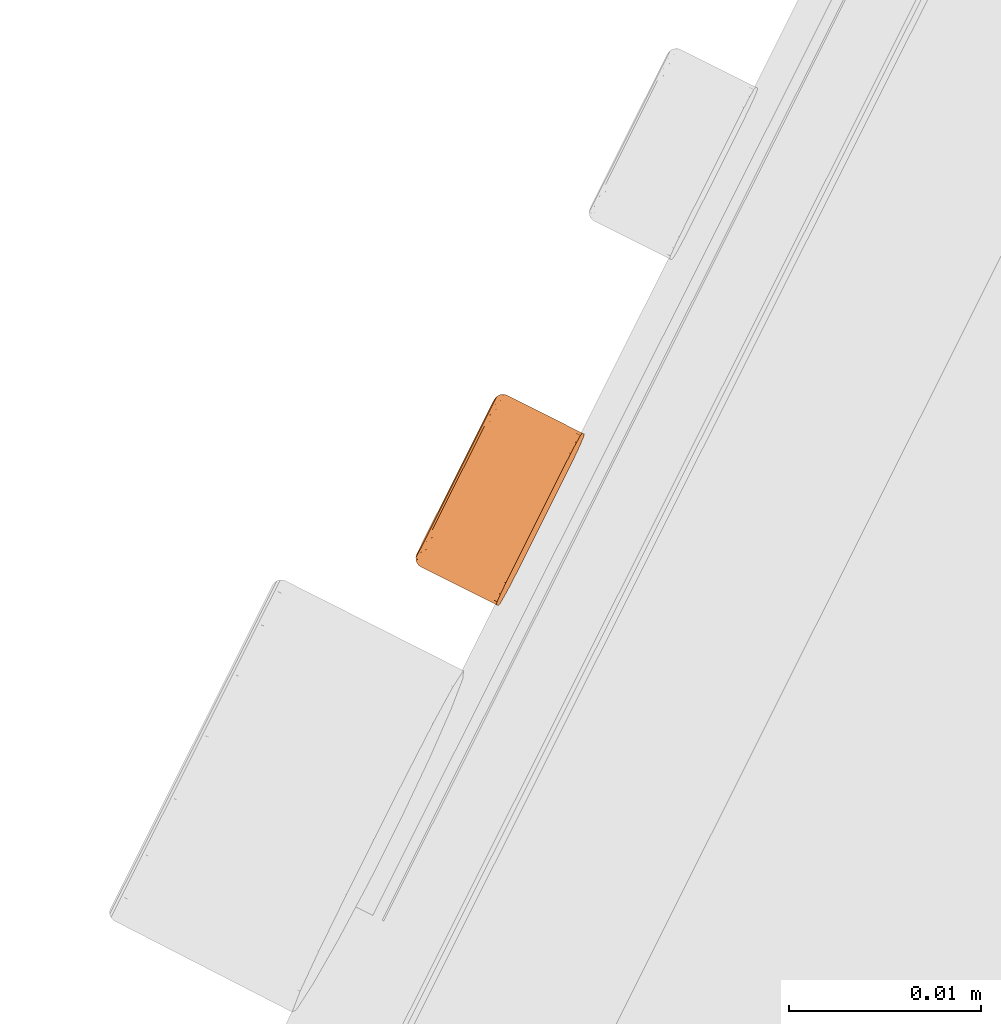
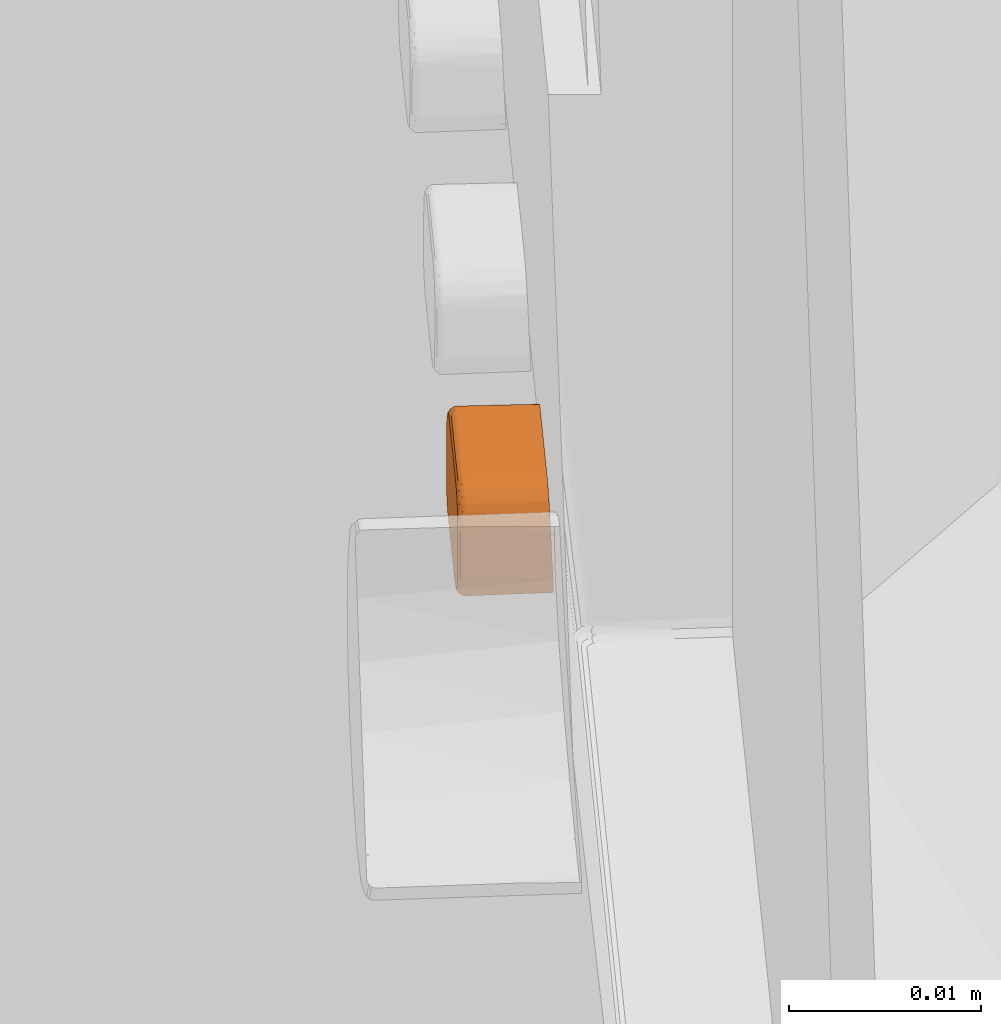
# One storey, part 194 of 206: 1 proxy.
"""IFC2X3 building model written with IfcOpenShell, lengths in metres."""

from ifc_helpers import new_model, si_unit, derived_unit, direction, frame, origin, place, context, subcontext, project, spatial, face_set, surface_model, source, transform, mapped, material, type_object, type_shapes, element, save


model = new_model("IFC2X3")

# Units and contexts
model_context = context("Model", 3, precision=5.2338327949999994e-05, world=origin(), true_north=direction((0.0, 1.0)))
body_context = subcontext(model_context, "Body", "Model", "MODEL_VIEW")
ifc_project = project(units=[si_unit("LENGTHUNIT", "METRE"), si_unit("AREAUNIT", "SQUARE_METRE"), si_unit("VOLUMEUNIT", "CUBIC_METRE"), si_unit("MASSUNIT", "GRAM", prefix="KILO"), si_unit("PLANEANGLEUNIT", "RADIAN"), derived_unit("THERMALTRANSMITTANCEUNIT", [(si_unit("MASSUNIT", "GRAM", prefix="KILO"), 1), (si_unit("THERMODYNAMICTEMPERATUREUNIT", "KELVIN"), -1), (si_unit("TIMEUNIT", "SECOND"), -3)])], contexts=[model_context])

# Site, building, storey
site_placement = place(None, frame((0.0, 0.0, 0.0), z_axis=(0.0, 0.0, 1.0), x_axis=(0.8939966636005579, -0.4480736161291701, 0.0)))
site = spatial("IfcSite", under=ifc_project, at=site_placement, Name="Default", CompositionType="ELEMENT")
building_placement = place(site_placement, origin())
building = spatial("IfcBuilding", under=site, at=building_placement, CompositionType="ELEMENT")
storey_placement = place(building_placement, origin())
storey = spatial("IfcBuildingStorey", under=building, at=storey_placement, Name="Erdgeschoss", CompositionType="ELEMENT", Elevation=0.0)

# Proxy
ifc_material = material(Name="IfcSurfaceStyle #623543")
building_element_proxy_type = type_object("IfcBuildingElementProxyType", Name="BuildingElementProxy 40:BuildingElementProxy 40", PredefinedType="NOTDEFINED", material=ifc_material)
shared_shape = source(origin(), body_context, "Body", "SurfaceModel", [
    surface_model("IfcFaceBasedSurfaceModel", [(21.22327664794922, 4.49878005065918, 0.6701360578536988), (21.223281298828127, 4.49801469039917, 0.669983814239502), (21.223295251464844, 4.497365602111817, 0.6695500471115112), (21.22331618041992, 4.496932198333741, 0.6689012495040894), (21.22334408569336, 4.496780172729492, 0.6681357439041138), (21.22346268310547, 4.496780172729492, 0.6651352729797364), (21.223555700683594, 4.49878005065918, 0.6631348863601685), (21.223555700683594, 4.504779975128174, 0.6631348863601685), (21.22346268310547, 4.506780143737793, 0.6651352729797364), (21.223420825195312, 4.496780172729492, 0.666135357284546), (21.223420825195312, 4.506780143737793, 0.666135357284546), (21.22338129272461, 4.496780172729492, 0.6671355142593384), (21.22338129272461, 4.506780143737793, 0.6671355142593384), (21.22334408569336, 4.506780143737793, 0.6681357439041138), (21.22327664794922, 4.504779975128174, 0.6701360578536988), (21.223497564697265, 4.496932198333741, 0.6643697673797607), (21.223527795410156, 4.497365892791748, 0.6637206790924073), (21.223546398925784, 4.49801469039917, 0.6632871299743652), (21.223546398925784, 4.505545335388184, 0.6632871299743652), (21.223527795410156, 4.506194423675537, 0.663720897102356), (21.223497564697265, 4.506627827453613, 0.6643697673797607), (21.22331618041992, 4.506627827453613, 0.6689012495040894), (21.223295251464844, 4.5061941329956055, 0.6695503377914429), (21.223281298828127, 4.505545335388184, 0.669983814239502), (21.218958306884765, 4.506780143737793, 0.6651532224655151), (21.218955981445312, 4.506741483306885, 0.6647626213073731), (21.218953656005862, 4.506627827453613, 0.6643877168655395), (21.218953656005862, 4.506442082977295, 0.6640408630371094), (21.21895133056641, 4.506194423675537, 0.6637391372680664), (21.21895133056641, 4.505889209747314, 0.6634889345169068), (21.218949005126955, 4.505545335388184, 0.6633054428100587), (21.218949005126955, 4.505168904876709, 0.6631914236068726), (21.218949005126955, 4.504779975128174, 0.6631531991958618), (21.218949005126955, 4.501780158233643, 0.6631531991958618), (21.218949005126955, 4.49878005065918, 0.6631531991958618), (21.218949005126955, 4.498389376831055, 0.6631917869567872), (21.218949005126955, 4.4980143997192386, 0.6633055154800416), (21.21895133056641, 4.497667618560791, 0.6634911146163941), (21.21895133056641, 4.497365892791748, 0.6637389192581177), (21.218953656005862, 4.497115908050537, 0.6640440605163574), (21.218953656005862, 4.496932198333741, 0.6643878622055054), (21.218955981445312, 4.496818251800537, 0.6647645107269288), (21.218958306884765, 4.496780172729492, 0.6651532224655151), (21.218962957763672, 4.496780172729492, 0.6666532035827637), (21.218969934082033, 4.496780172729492, 0.6681531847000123), (21.218488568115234, 4.49878005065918, 0.663463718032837), (21.218451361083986, 4.49878005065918, 0.6636552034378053), (21.218451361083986, 4.501780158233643, 0.6636552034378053), (21.218488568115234, 4.504779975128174, 0.663463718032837), (21.218595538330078, 4.504779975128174, 0.663301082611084), (21.218451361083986, 4.504779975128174, 0.6636552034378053), (21.218595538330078, 4.49878005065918, 0.663301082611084), (21.218758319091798, 4.504779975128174, 0.6631920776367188), (21.218758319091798, 4.49878005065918, 0.6631920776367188), (21.21885133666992, 4.504779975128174, 0.6631632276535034), (21.21885133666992, 4.49878005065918, 0.6631632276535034), (21.218451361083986, 4.505352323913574, 0.663768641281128), (21.218488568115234, 4.5054252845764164, 0.6635916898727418), (21.21859786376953, 4.5054871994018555, 0.6634411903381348), (21.218758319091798, 4.505161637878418, 0.6632302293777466), (21.218758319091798, 4.505528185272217, 0.6633409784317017), (21.21885133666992, 4.5055389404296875, 0.663314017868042), (21.218758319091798, 4.505867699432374, 0.6635218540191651), (21.218853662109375, 4.505883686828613, 0.6634975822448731), (21.21876064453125, 4.506165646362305, 0.6637658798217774), (21.218853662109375, 4.50618599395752, 0.663745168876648), (21.218855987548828, 4.506433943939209, 0.6640468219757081), (21.21845368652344, 4.505839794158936, 0.6640936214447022), (21.218490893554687, 4.505974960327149, 0.6639580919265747), (21.21859786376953, 4.506089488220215, 0.6638428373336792), (21.21849321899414, 4.50634208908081, 0.6645068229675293), (21.218600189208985, 4.506492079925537, 0.6644442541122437), (21.21860484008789, 4.506633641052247, 0.6651546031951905), (21.218765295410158, 4.50670340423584, 0.6647705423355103), (21.218765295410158, 4.506742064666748, 0.6651539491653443), (21.21885831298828, 4.506731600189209, 0.6647645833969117), (21.218860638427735, 4.506770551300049, 0.6651535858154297), (21.218456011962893, 4.506165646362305, 0.6645804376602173), (21.218495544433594, 4.506471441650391, 0.6651550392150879), (21.218458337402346, 4.506280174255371, 0.6651551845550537), (21.218855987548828, 4.5066182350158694, 0.6643912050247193), (21.218762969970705, 4.50659178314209, 0.6644026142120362), (21.21876064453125, 4.506410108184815, 0.66406310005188), (21.21885133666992, 4.50516716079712, 0.663201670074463), (21.21885133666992, 4.498391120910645, 0.6632021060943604), (21.218758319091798, 4.498396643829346, 0.6632305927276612), (21.21859786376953, 4.49806962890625, 0.6634425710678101), (21.218488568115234, 4.4981318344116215, 0.6635929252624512), (21.21859786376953, 4.497468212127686, 0.6638450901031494), (21.218490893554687, 4.497583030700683, 0.6639601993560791), (21.21849321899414, 4.497216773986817, 0.6645099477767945), (21.21845368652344, 4.497718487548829, 0.6640955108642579), (21.218456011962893, 4.4973935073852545, 0.6645830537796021), (21.21885133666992, 4.498017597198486, 0.6633154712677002), (21.218758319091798, 4.498028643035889, 0.663342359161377), (21.21876064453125, 4.497689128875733, 0.6635239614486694), (21.21876064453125, 4.497392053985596, 0.6637682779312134), (21.21876064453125, 4.497147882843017, 0.6640663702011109), (21.218855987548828, 4.497124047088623, 0.664050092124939), (21.218855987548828, 4.496940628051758, 0.6643946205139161), (21.218853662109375, 4.497673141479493, 0.6634996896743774), (21.218853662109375, 4.497371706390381, 0.663747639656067), (21.21885831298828, 4.496828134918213, 0.6647664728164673), (21.218860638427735, 4.496789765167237, 0.6651535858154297), (21.218765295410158, 4.496818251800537, 0.6651539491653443), (21.218765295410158, 4.496856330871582, 0.664772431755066), (21.218762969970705, 4.496967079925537, 0.66440595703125), (21.218600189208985, 4.497066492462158, 0.6644475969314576), (21.21860484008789, 4.496926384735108, 0.6651546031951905), (21.218495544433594, 4.497088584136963, 0.6651550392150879), (21.218458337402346, 4.497280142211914, 0.6651551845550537), (21.218451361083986, 4.498205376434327, 0.6637697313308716), (21.21846298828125, 4.506280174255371, 0.6666551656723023), (21.21850717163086, 4.506471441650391, 0.668155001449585), (21.21861646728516, 4.506633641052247, 0.6681546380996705), (21.21846996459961, 4.506280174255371, 0.6681552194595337), (21.21877692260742, 4.506742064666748, 0.6681539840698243), (21.218872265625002, 4.506770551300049, 0.6681535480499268), (21.218962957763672, 4.506780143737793, 0.6666532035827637), (21.218969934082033, 4.506780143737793, 0.6681531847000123), (21.218872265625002, 4.496789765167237, 0.6681535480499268), (21.21877692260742, 4.496818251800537, 0.6681539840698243), (21.21861646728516, 4.496926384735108, 0.6681546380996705), (21.21850717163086, 4.497088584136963, 0.668155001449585), (21.21846298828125, 4.497280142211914, 0.6666551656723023), (21.21846996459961, 4.497280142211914, 0.6681552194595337), (21.218472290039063, 4.5061665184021, 0.6687273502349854), (21.218509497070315, 4.506343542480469, 0.6688001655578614), (21.21861879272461, 4.506493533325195, 0.6688616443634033), (21.218779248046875, 4.506703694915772, 0.6685355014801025), (21.21878157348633, 4.506592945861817, 0.6689019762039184), (21.218874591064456, 4.506619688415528, 0.6689125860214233), (21.21878157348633, 4.5064121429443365, 0.6692415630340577), (21.21887691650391, 4.506435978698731, 0.6692571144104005), (21.218783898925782, 4.5061682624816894, 0.6695396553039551), (21.21887691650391, 4.506188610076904, 0.6695595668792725), (21.21887924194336, 4.505886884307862, 0.669807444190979), (21.21897458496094, 4.5061941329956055, 0.6695674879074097), (21.218976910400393, 4.505892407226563, 0.6698152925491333), (21.218472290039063, 4.505841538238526, 0.6692148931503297), (21.218511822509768, 4.50597699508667, 0.6693499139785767), (21.218621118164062, 4.506091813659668, 0.6694640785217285), (21.218514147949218, 4.505428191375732, 0.6697171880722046), (21.218623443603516, 4.505490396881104, 0.6698666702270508), (21.218623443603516, 4.504779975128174, 0.6700081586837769), (21.218786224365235, 4.505163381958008, 0.6700773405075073), (21.218786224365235, 4.504779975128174, 0.6701158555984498), (21.21887924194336, 4.505169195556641, 0.670105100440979), (21.21887924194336, 4.504779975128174, 0.670143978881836), (21.218976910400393, 4.505170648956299, 0.6701146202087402), (21.218976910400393, 4.504779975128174, 0.6701532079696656), (21.218474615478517, 4.5053549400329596, 0.6695406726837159), (21.218514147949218, 4.504779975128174, 0.6698463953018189), (21.218474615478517, 4.504779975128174, 0.6696552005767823), (21.218976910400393, 4.505545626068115, 0.6700008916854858), (21.21887924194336, 4.505542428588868, 0.6699916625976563), (21.218786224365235, 4.505531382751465, 0.6699655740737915), (21.218783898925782, 4.505870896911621, 0.6697839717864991), (21.21897458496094, 4.5064444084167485, 0.66926234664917), (21.218972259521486, 4.506627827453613, 0.668918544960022), (21.218872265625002, 4.5067318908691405, 0.6685406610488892), (21.218969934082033, 4.506741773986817, 0.6685418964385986), (21.218969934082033, 4.496818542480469, 0.6685438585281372), (21.218872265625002, 4.496828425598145, 0.6685426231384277), (21.218779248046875, 4.4968566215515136, 0.6685373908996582), (21.21861879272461, 4.497067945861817, 0.6688649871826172), (21.218509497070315, 4.4972179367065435, 0.6688032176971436), (21.218621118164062, 4.497470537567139, 0.6694664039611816), (21.218511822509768, 4.497585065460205, 0.6693519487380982), (21.218514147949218, 4.498135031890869, 0.6697184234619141), (21.218472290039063, 4.497720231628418, 0.6692167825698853), (21.218474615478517, 4.498207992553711, 0.6695417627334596), (21.218972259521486, 4.496932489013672, 0.6689186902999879), (21.218874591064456, 4.496941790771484, 0.6689159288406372), (21.21878157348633, 4.496968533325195, 0.6689053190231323), (21.21878157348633, 4.497149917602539, 0.6692448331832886), (21.218783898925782, 4.4973943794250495, 0.6695420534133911), (21.218783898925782, 4.497692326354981, 0.6697860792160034), (21.21887924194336, 4.497676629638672, 0.6698096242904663), (21.21887924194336, 4.498021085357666, 0.6699931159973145), (21.218976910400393, 4.49801469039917, 0.6700009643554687), (21.21897458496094, 4.497117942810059, 0.669265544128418), (21.21887691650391, 4.497126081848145, 0.6692603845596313), (21.21897458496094, 4.497365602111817, 0.669567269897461), (21.21887691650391, 4.4973740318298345, 0.6695620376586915), (21.218976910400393, 4.497670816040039, 0.6698174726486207), (21.21887924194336, 4.498392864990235, 0.6701055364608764), (21.218976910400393, 4.4983914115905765, 0.6701149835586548), (21.21887924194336, 4.49878005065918, 0.670143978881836), (21.218976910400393, 4.49878005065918, 0.6701532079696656), (21.218786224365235, 4.49878005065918, 0.6701158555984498), (21.218786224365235, 4.498398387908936, 0.6700777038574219), (21.218786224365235, 4.498032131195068, 0.6699669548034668), (21.218623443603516, 4.49807311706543, 0.6698679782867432), (21.218623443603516, 4.49878005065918, 0.6700081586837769), (21.218514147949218, 4.49878005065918, 0.6698463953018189), (21.218474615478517, 4.49878005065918, 0.6696552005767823), (21.218472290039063, 4.49739467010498, 0.6687299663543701), (21.218474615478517, 4.501065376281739, 0.6696552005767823), (21.218976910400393, 4.501065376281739, 0.6701532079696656), (21.22331618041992, 4.496932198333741, 0.6689012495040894), (21.223295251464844, 4.497365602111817, 0.6695500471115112), (21.22338129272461, 4.506780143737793, 0.6671355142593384)], [face_set([[[0, 1, 2]], [[0, 2, 3]], [[0, 3, 4]], [[5, 6, 7]], [[5, 7, 8]], [[9, 5, 8]], [[9, 8, 10]], [[9, 10, 11]], [[11, 10, 12]], [[11, 12, 4]], [[4, 12, 13]], [[4, 13, 0]], [[0, 13, 14]], [[5, 15, 6]], [[6, 15, 16]], [[6, 16, 17]], [[7, 18, 19]], [[7, 19, 20]], [[7, 20, 8]], [[13, 21, 14]], [[14, 21, 22]], [[14, 22, 23]], [[24, 8, 25]], [[25, 8, 20]], [[25, 20, 26]], [[27, 26, 20]], [[20, 19, 27]], [[27, 19, 28]], [[28, 19, 29]], [[29, 19, 18]], [[29, 18, 30]], [[31, 30, 18]], [[31, 18, 7]], [[31, 7, 32]], [[32, 7, 33]], [[33, 7, 6]], [[33, 6, 34]], [[35, 34, 6]], [[35, 6, 17]], [[35, 17, 36]], [[37, 36, 17]], [[17, 16, 37]], [[37, 16, 38]], [[38, 16, 39]], [[39, 16, 15]], [[39, 15, 40]], [[41, 40, 15]], [[41, 15, 5]], [[41, 5, 42]], [[5, 9, 42]], [[42, 9, 43]], [[9, 11, 43]], [[43, 11, 44]], [[11, 4, 44]], [[45, 46, 47]], [[45, 47, 48]], [[45, 48, 49]], [[47, 50, 48]], [[45, 49, 51]], [[51, 49, 52]], [[51, 52, 53]], [[53, 52, 54]], [[53, 54, 55]], [[55, 54, 33]], [[55, 33, 34]], [[54, 32, 33]], [[48, 50, 56]], [[48, 56, 57]], [[49, 48, 57]], [[49, 57, 58]], [[49, 58, 59]], [[59, 58, 60]], [[59, 60, 61]], [[61, 60, 62]], [[61, 62, 63]], [[63, 62, 64]], [[63, 64, 65]], [[64, 66, 65]], [[65, 66, 28]], [[28, 66, 27]], [[57, 56, 67]], [[57, 67, 68]], [[57, 68, 69]], [[69, 68, 70]], [[69, 70, 71]], [[71, 70, 72]], [[71, 72, 73]], [[73, 72, 74]], [[75, 73, 74]], [[75, 74, 76]], [[25, 75, 76]], [[25, 76, 24]], [[68, 67, 70]], [[70, 67, 77]], [[70, 77, 78]], [[78, 77, 79]], [[70, 78, 72]], [[25, 26, 75]], [[75, 26, 80]], [[75, 80, 73]], [[73, 80, 81]], [[73, 81, 71]], [[71, 81, 82]], [[71, 82, 69]], [[69, 82, 64]], [[69, 64, 62]], [[26, 27, 80]], [[80, 27, 66]], [[80, 66, 82]], [[66, 64, 82]], [[28, 29, 65]], [[65, 29, 63]], [[29, 30, 63]], [[63, 30, 61]], [[30, 83, 61]], [[61, 83, 59]], [[83, 52, 59]], [[59, 52, 49]], [[30, 31, 83]], [[31, 54, 83]], [[83, 54, 52]], [[31, 32, 54]], [[57, 69, 58]], [[58, 69, 62]], [[58, 62, 60]], [[80, 82, 81]], [[34, 35, 55]], [[55, 35, 84]], [[55, 84, 53]], [[53, 84, 85]], [[53, 85, 51]], [[51, 85, 86]], [[51, 86, 87]], [[87, 86, 88]], [[87, 88, 89]], [[90, 89, 88]], [[89, 90, 91]], [[91, 90, 92]], [[35, 36, 84]], [[84, 36, 93]], [[84, 93, 85]], [[85, 93, 94]], [[85, 94, 86]], [[86, 94, 95]], [[86, 95, 88]], [[88, 95, 96]], [[88, 96, 97]], [[98, 97, 96]], [[98, 99, 97]], [[99, 98, 40]], [[36, 37, 93]], [[93, 37, 100]], [[93, 100, 95]], [[100, 96, 95]], [[37, 38, 100]], [[100, 38, 101]], [[100, 101, 96]], [[101, 98, 96]], [[38, 39, 101]], [[101, 39, 98]], [[39, 40, 98]], [[40, 102, 99]], [[102, 40, 41]], [[41, 103, 102]], [[103, 41, 42]], [[104, 102, 103]], [[102, 104, 105]], [[105, 99, 102]], [[99, 105, 106]], [[99, 106, 97]], [[97, 106, 107]], [[88, 97, 107]], [[88, 107, 90]], [[104, 108, 105]], [[107, 105, 108]], [[105, 107, 106]], [[107, 108, 90]], [[90, 108, 109]], [[90, 109, 92]], [[92, 109, 110]], [[89, 91, 87]], [[87, 91, 111]], [[87, 111, 45]], [[45, 111, 46]], [[87, 45, 51]], [[93, 95, 94]], [[78, 79, 112]], [[78, 112, 113]], [[78, 113, 114]], [[112, 115, 113]], [[78, 114, 72]], [[72, 114, 116]], [[72, 116, 74]], [[74, 116, 117]], [[74, 117, 76]], [[76, 117, 118]], [[76, 118, 24]], [[119, 118, 117]], [[103, 42, 43]], [[103, 43, 120]], [[103, 120, 121]], [[43, 44, 120]], [[103, 121, 104]], [[104, 121, 122]], [[104, 122, 108]], [[108, 122, 123]], [[108, 123, 109]], [[109, 123, 124]], [[109, 124, 110]], [[123, 125, 124]], [[113, 115, 126]], [[113, 126, 127]], [[114, 113, 127]], [[114, 127, 128]], [[114, 128, 129]], [[129, 128, 130]], [[129, 130, 131]], [[131, 130, 132]], [[131, 132, 133]], [[133, 132, 134]], [[133, 134, 135]], [[134, 136, 135]], [[135, 136, 137]], [[137, 136, 138]], [[127, 126, 139]], [[127, 139, 140]], [[127, 140, 141]], [[141, 140, 142]], [[141, 142, 143]], [[143, 142, 144]], [[143, 144, 145]], [[145, 144, 146]], [[147, 145, 146]], [[147, 146, 148]], [[149, 147, 148]], [[149, 148, 150]], [[140, 139, 142]], [[142, 139, 151]], [[142, 151, 152]], [[152, 151, 153]], [[142, 152, 144]], [[149, 154, 147]], [[147, 154, 155]], [[147, 155, 145]], [[145, 155, 156]], [[145, 156, 143]], [[143, 156, 157]], [[143, 157, 141]], [[141, 157, 134]], [[141, 134, 132]], [[154, 138, 155]], [[155, 138, 136]], [[155, 136, 157]], [[136, 134, 157]], [[137, 158, 135]], [[135, 158, 133]], [[158, 159, 133]], [[133, 159, 131]], [[159, 160, 131]], [[131, 160, 129]], [[160, 116, 129]], [[129, 116, 114]], [[159, 161, 160]], [[161, 117, 160]], [[160, 117, 116]], [[161, 119, 117]], [[127, 141, 128]], [[128, 141, 132]], [[128, 132, 130]], [[155, 157, 156]], [[44, 162, 120]], [[120, 162, 163]], [[120, 163, 121]], [[121, 163, 164]], [[121, 164, 122]], [[122, 164, 165]], [[122, 165, 166]], [[166, 165, 167]], [[166, 167, 168]], [[169, 168, 167]], [[168, 169, 170]], [[170, 169, 171]], [[162, 172, 163]], [[163, 172, 173]], [[163, 173, 164]], [[164, 173, 174]], [[164, 174, 165]], [[165, 174, 175]], [[165, 175, 167]], [[167, 175, 176]], [[167, 176, 177]], [[178, 177, 176]], [[178, 179, 177]], [[179, 178, 180]], [[172, 181, 173]], [[173, 181, 182]], [[173, 182, 175]], [[182, 176, 175]], [[181, 183, 182]], [[182, 183, 184]], [[182, 184, 176]], [[184, 178, 176]], [[183, 185, 184]], [[184, 185, 178]], [[185, 180, 178]], [[180, 186, 179]], [[186, 180, 187]], [[187, 188, 186]], [[188, 187, 189]], [[190, 186, 188]], [[186, 190, 191]], [[191, 179, 186]], [[179, 191, 192]], [[179, 192, 177]], [[177, 192, 193]], [[167, 177, 193]], [[167, 193, 169]], [[190, 194, 191]], [[193, 191, 194]], [[191, 193, 192]], [[193, 194, 169]], [[169, 194, 195]], [[169, 195, 171]], [[171, 195, 196]], [[168, 170, 166]], [[166, 170, 197]], [[166, 197, 123]], [[123, 197, 125]], [[166, 123, 122]], [[173, 175, 174]], [[153, 198, 152]], [[152, 198, 195]], [[152, 195, 194]], [[198, 196, 195]], [[152, 194, 144]], [[144, 194, 190]], [[144, 190, 146]], [[146, 190, 188]], [[146, 188, 148]], [[148, 188, 199]], [[148, 199, 150]], [[188, 189, 199]], [[162, 44, 4]], [[162, 4, 200]], [[162, 200, 172]], [[181, 172, 200]], [[200, 201, 181]], [[181, 201, 183]], [[183, 201, 185]], [[185, 201, 1]], [[185, 1, 180]], [[187, 180, 1]], [[187, 1, 0]], [[187, 0, 189]], [[124, 125, 196]], [[124, 196, 198]], [[124, 198, 47]], [[47, 198, 112]], [[47, 112, 50]], [[50, 112, 79]], [[50, 79, 77]], [[47, 46, 124]], [[124, 46, 110]], [[46, 111, 110]], [[110, 111, 91]], [[110, 91, 92]], [[125, 197, 196]], [[196, 197, 170]], [[196, 170, 171]], [[198, 153, 112]], [[112, 153, 115]], [[153, 151, 115]], [[115, 151, 139]], [[115, 139, 126]], [[77, 67, 50]], [[50, 67, 56]], [[119, 13, 202]], [[119, 202, 118]], [[202, 10, 118]], [[118, 10, 24]], [[10, 8, 24]], [[149, 150, 14]], [[149, 14, 23]], [[149, 23, 154]], [[138, 154, 23]], [[23, 22, 138]], [[138, 22, 137]], [[137, 22, 158]], [[158, 22, 21]], [[158, 21, 159]], [[161, 159, 21]], [[161, 21, 13]], [[161, 13, 119]], [[189, 0, 199]], [[199, 0, 14]], [[199, 14, 150]]])]),
])
type_shapes(building_element_proxy_type, [shared_shape])
proxy_placement = place(storey_placement, origin())
element("IfcBuildingElementProxy", 1, at=proxy_placement, inside=storey, type_object=building_element_proxy_type, material=ifc_material, Name="BuildingElementProxy 40", context=body_context, shape_type="MappedRepresentation", body=[
    mapped(shared_shape, transform((0.0, 0.0, 0.0), scale=1.0)),
])

save(model, "model.ifc")
